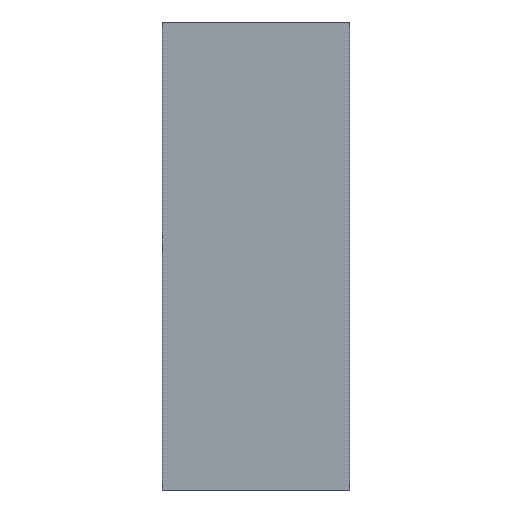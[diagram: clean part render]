
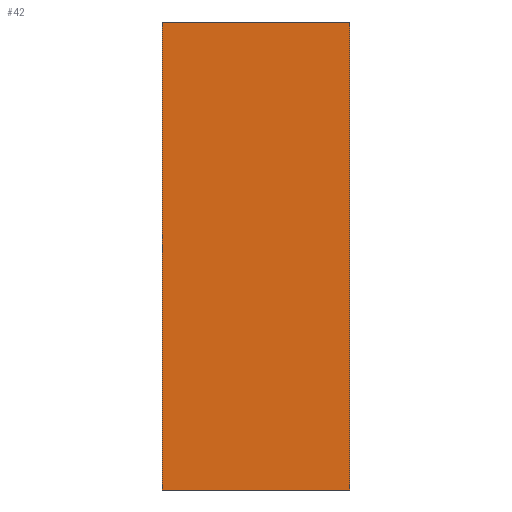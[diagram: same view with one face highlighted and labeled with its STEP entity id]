
A CAD part, left-side view. The second image highlights one B-rep face of the part: STEP entity #42.
In plain terms, the highlighted planar face has unit normal (-1, 0, 0).
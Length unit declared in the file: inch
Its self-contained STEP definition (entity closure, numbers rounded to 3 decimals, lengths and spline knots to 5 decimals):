
#5 = VERTEX_POINT ( 'NONE', #285 ) ;
#20 = VECTOR ( 'NONE', #437, 39.37008 ) ;
#28 = LINE ( 'NONE', #436, #20 ) ;
#42 = ADVANCED_FACE ( 'NONE', ( #83 ), #342, .F. ) ;
#58 = LINE ( 'NONE', #359, #59 ) ;
#59 = VECTOR ( 'NONE', #375, 39.37008 ) ;
#60 = VECTOR ( 'NONE', #383, 39.37008 ) ;
#79 = LINE ( 'NONE', #357, #60 ) ;
#83 = FACE_OUTER_BOUND ( 'NONE', #195, .T. ) ;
#91 = VECTOR ( 'NONE', #389, 39.37008 ) ;
#101 = LINE ( 'NONE', #362, #91 ) ;
#103 = EDGE_CURVE ( 'NONE', #276, #287, #101, .T. ) ;
#115 = EDGE_CURVE ( 'NONE', #276, #5, #79, .T. ) ;
#120 = EDGE_CURVE ( 'NONE', #5, #277, #58, .T. ) ;
#137 = EDGE_CURVE ( 'NONE', #287, #277, #28, .T. ) ;
#163 = AXIS2_PLACEMENT_3D ( 'NONE', #343, #331, #344 ) ;
#195 = EDGE_LOOP ( 'NONE', ( #239, #246, #230, #253 ) ) ;
#230 = ORIENTED_EDGE ( 'NONE', *, *, #115, .F. ) ;
#239 = ORIENTED_EDGE ( 'NONE', *, *, #137, .T. ) ;
#246 = ORIENTED_EDGE ( 'NONE', *, *, #120, .F. ) ;
#253 = ORIENTED_EDGE ( 'NONE', *, *, #103, .T. ) ;
#276 = VERTEX_POINT ( 'NONE', #434 ) ;
#277 = VERTEX_POINT ( 'NONE', #424 ) ;
#285 = CARTESIAN_POINT ( 'NONE',  ( 0., 0.5, 0. ) ) ;
#287 = VERTEX_POINT ( 'NONE', #431 ) ;
#331 = DIRECTION ( 'NONE',  ( 1., 0., 0. ) ) ;
#342 = PLANE ( 'NONE',  #163 ) ;
#343 = CARTESIAN_POINT ( 'NONE',  ( 0., 0.5, 0. ) ) ;
#344 = DIRECTION ( 'NONE',  ( 0., 0., -1. ) ) ;
#357 = CARTESIAN_POINT ( 'NONE',  ( 0., 0.5, 0. ) ) ;
#359 = CARTESIAN_POINT ( 'NONE',  ( 0., 0.5, 0. ) ) ;
#362 = CARTESIAN_POINT ( 'NONE',  ( 0., 0.5, -1.25 ) ) ;
#375 = DIRECTION ( 'NONE',  ( 0., -1., 0. ) ) ;
#383 = DIRECTION ( 'NONE',  ( 0., 0., 1. ) ) ;
#389 = DIRECTION ( 'NONE',  ( 0., -1., 0. ) ) ;
#424 = CARTESIAN_POINT ( 'NONE',  ( 0., 0., 0. ) ) ;
#431 = CARTESIAN_POINT ( 'NONE',  ( 0., 0., -1.25 ) ) ;
#434 = CARTESIAN_POINT ( 'NONE',  ( 0., 0.5, -1.25 ) ) ;
#436 = CARTESIAN_POINT ( 'NONE',  ( 0., 0., 0. ) ) ;
#437 = DIRECTION ( 'NONE',  ( 0., 0., 1. ) ) ;
